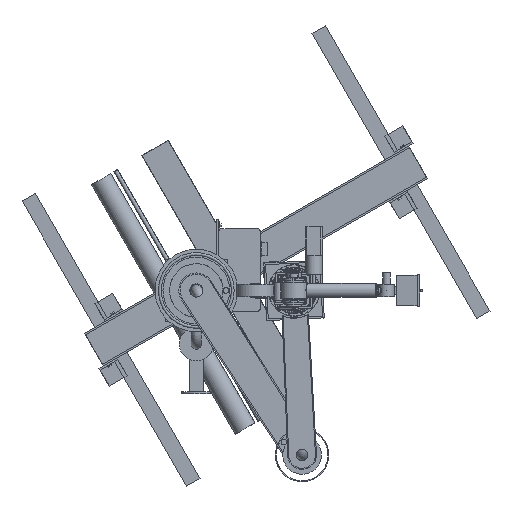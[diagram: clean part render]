
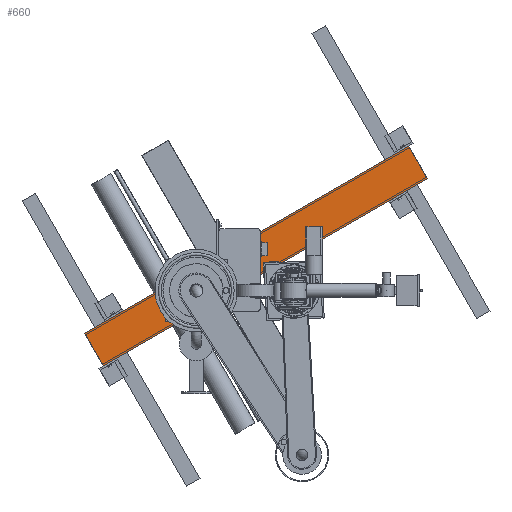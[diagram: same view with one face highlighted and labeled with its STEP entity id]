
A CAD part, front view. The second image highlights one B-rep face of the part: STEP entity #660.
In plain terms, the highlighted planar face has unit normal (0, -1, 0).
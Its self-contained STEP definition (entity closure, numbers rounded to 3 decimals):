
#438 = EDGE_CURVE('',#439,#441,#443,.T.);
#439 = VERTEX_POINT('',#440);
#440 = CARTESIAN_POINT('',(-574.2,5289.,-90.9));
#441 = VERTEX_POINT('',#442);
#442 = CARTESIAN_POINT('',(-574.2,5289.,90.9));
#443 = SURFACE_CURVE('',#444,(#448,#460),.PCURVE_S1.);
#444 = LINE('',#445,#446);
#445 = CARTESIAN_POINT('',(-574.2,5289.,-90.9));
#446 = VECTOR('',#447,1.);
#447 = DIRECTION('',(0.,0.,1.));
#448 = PCURVE('',#449,#454);
#449 = PLANE('',#450);
#450 = AXIS2_PLACEMENT_3D('',#451,#452,#453);
#451 = CARTESIAN_POINT('',(-574.2,5289.,-90.9));
#452 = DIRECTION('',(1.,0.,0.));
#453 = DIRECTION('',(0.,0.,1.));
#454 = DEFINITIONAL_REPRESENTATION('',(#455),#459);
#455 = LINE('',#456,#457);
#456 = CARTESIAN_POINT('',(0.,0.));
#457 = VECTOR('',#458,1.);
#458 = DIRECTION('',(1.,0.));
#459 = ( GEOMETRIC_REPRESENTATION_CONTEXT(2) 
PARAMETRIC_REPRESENTATION_CONTEXT() REPRESENTATION_CONTEXT('2D SPACE',''
  ) );
#460 = PCURVE('',#461,#466);
#461 = PLANE('',#462);
#462 = AXIS2_PLACEMENT_3D('',#463,#464,#465);
#463 = CARTESIAN_POINT('',(-574.2,5289.,-90.9));
#464 = DIRECTION('',(0.,1.,0.));
#465 = DIRECTION('',(0.,0.,1.));
#466 = DEFINITIONAL_REPRESENTATION('',(#467),#471);
#467 = LINE('',#468,#469);
#468 = CARTESIAN_POINT('',(0.,0.));
#469 = VECTOR('',#470,1.);
#470 = DIRECTION('',(1.,0.));
#471 = ( GEOMETRIC_REPRESENTATION_CONTEXT(2) 
PARAMETRIC_REPRESENTATION_CONTEXT() REPRESENTATION_CONTEXT('2D SPACE',''
  ) );
#489 = PLANE('',#490);
#490 = AXIS2_PLACEMENT_3D('',#491,#492,#493);
#491 = CARTESIAN_POINT('',(-574.2,5289.,-90.9));
#492 = DIRECTION('',(0.,0.,1.));
#493 = DIRECTION('',(1.,0.,0.));
#543 = PLANE('',#544);
#544 = AXIS2_PLACEMENT_3D('',#545,#546,#547);
#545 = CARTESIAN_POINT('',(-574.2,5289.,90.9));
#546 = DIRECTION('',(0.,0.,1.));
#547 = DIRECTION('',(1.,0.,0.));
#660 = ADVANCED_FACE('',(#661),#461,.F.);
#661 = FACE_BOUND('',#662,.F.);
#662 = EDGE_LOOP('',(#663,#686,#687,#710));
#663 = ORIENTED_EDGE('',*,*,#664,.F.);
#664 = EDGE_CURVE('',#439,#665,#667,.T.);
#665 = VERTEX_POINT('',#666);
#666 = CARTESIAN_POINT('',(1244.1,5289.,-90.9));
#667 = SURFACE_CURVE('',#668,(#672,#679),.PCURVE_S1.);
#668 = LINE('',#669,#670);
#669 = CARTESIAN_POINT('',(-574.2,5289.,-90.9));
#670 = VECTOR('',#671,1.);
#671 = DIRECTION('',(1.,0.,0.));
#672 = PCURVE('',#461,#673);
#673 = DEFINITIONAL_REPRESENTATION('',(#674),#678);
#674 = LINE('',#675,#676);
#675 = CARTESIAN_POINT('',(0.,0.));
#676 = VECTOR('',#677,1.);
#677 = DIRECTION('',(0.,1.));
#678 = ( GEOMETRIC_REPRESENTATION_CONTEXT(2) 
PARAMETRIC_REPRESENTATION_CONTEXT() REPRESENTATION_CONTEXT('2D SPACE',''
  ) );
#679 = PCURVE('',#489,#680);
#680 = DEFINITIONAL_REPRESENTATION('',(#681),#685);
#681 = LINE('',#682,#683);
#682 = CARTESIAN_POINT('',(0.,0.));
#683 = VECTOR('',#684,1.);
#684 = DIRECTION('',(1.,0.));
#685 = ( GEOMETRIC_REPRESENTATION_CONTEXT(2) 
PARAMETRIC_REPRESENTATION_CONTEXT() REPRESENTATION_CONTEXT('2D SPACE',''
  ) );
#686 = ORIENTED_EDGE('',*,*,#438,.T.);
#687 = ORIENTED_EDGE('',*,*,#688,.T.);
#688 = EDGE_CURVE('',#441,#689,#691,.T.);
#689 = VERTEX_POINT('',#690);
#690 = CARTESIAN_POINT('',(1244.1,5289.,90.9));
#691 = SURFACE_CURVE('',#692,(#696,#703),.PCURVE_S1.);
#692 = LINE('',#693,#694);
#693 = CARTESIAN_POINT('',(-574.2,5289.,90.9));
#694 = VECTOR('',#695,1.);
#695 = DIRECTION('',(1.,0.,0.));
#696 = PCURVE('',#461,#697);
#697 = DEFINITIONAL_REPRESENTATION('',(#698),#702);
#698 = LINE('',#699,#700);
#699 = CARTESIAN_POINT('',(181.8,0.));
#700 = VECTOR('',#701,1.);
#701 = DIRECTION('',(0.,1.));
#702 = ( GEOMETRIC_REPRESENTATION_CONTEXT(2) 
PARAMETRIC_REPRESENTATION_CONTEXT() REPRESENTATION_CONTEXT('2D SPACE',''
  ) );
#703 = PCURVE('',#543,#704);
#704 = DEFINITIONAL_REPRESENTATION('',(#705),#709);
#705 = LINE('',#706,#707);
#706 = CARTESIAN_POINT('',(0.,0.));
#707 = VECTOR('',#708,1.);
#708 = DIRECTION('',(1.,0.));
#709 = ( GEOMETRIC_REPRESENTATION_CONTEXT(2) 
PARAMETRIC_REPRESENTATION_CONTEXT() REPRESENTATION_CONTEXT('2D SPACE',''
  ) );
#710 = ORIENTED_EDGE('',*,*,#711,.F.);
#711 = EDGE_CURVE('',#665,#689,#712,.T.);
#712 = SURFACE_CURVE('',#713,(#717,#724),.PCURVE_S1.);
#713 = LINE('',#714,#715);
#714 = CARTESIAN_POINT('',(1244.1,5289.,-90.9));
#715 = VECTOR('',#716,1.);
#716 = DIRECTION('',(0.,0.,1.));
#717 = PCURVE('',#461,#718);
#718 = DEFINITIONAL_REPRESENTATION('',(#719),#723);
#719 = LINE('',#720,#721);
#720 = CARTESIAN_POINT('',(0.,1818.3));
#721 = VECTOR('',#722,1.);
#722 = DIRECTION('',(1.,0.));
#723 = ( GEOMETRIC_REPRESENTATION_CONTEXT(2) 
PARAMETRIC_REPRESENTATION_CONTEXT() REPRESENTATION_CONTEXT('2D SPACE',''
  ) );
#724 = PCURVE('',#725,#730);
#725 = PLANE('',#726);
#726 = AXIS2_PLACEMENT_3D('',#727,#728,#729);
#727 = CARTESIAN_POINT('',(1244.1,5289.,-90.9));
#728 = DIRECTION('',(1.,0.,0.));
#729 = DIRECTION('',(0.,0.,1.));
#730 = DEFINITIONAL_REPRESENTATION('',(#731),#735);
#731 = LINE('',#732,#733);
#732 = CARTESIAN_POINT('',(0.,0.));
#733 = VECTOR('',#734,1.);
#734 = DIRECTION('',(1.,0.));
#735 = ( GEOMETRIC_REPRESENTATION_CONTEXT(2) 
PARAMETRIC_REPRESENTATION_CONTEXT() REPRESENTATION_CONTEXT('2D SPACE',''
  ) );
